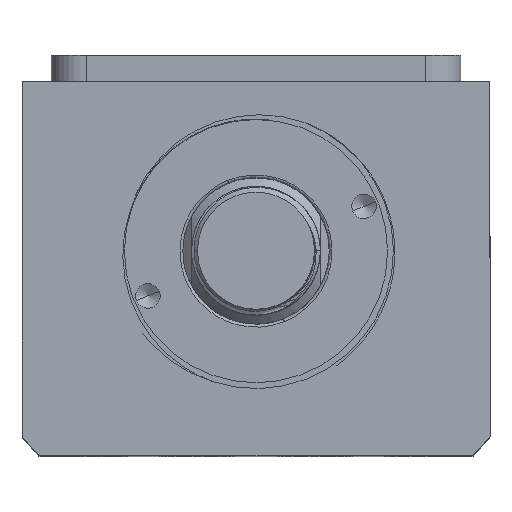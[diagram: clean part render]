
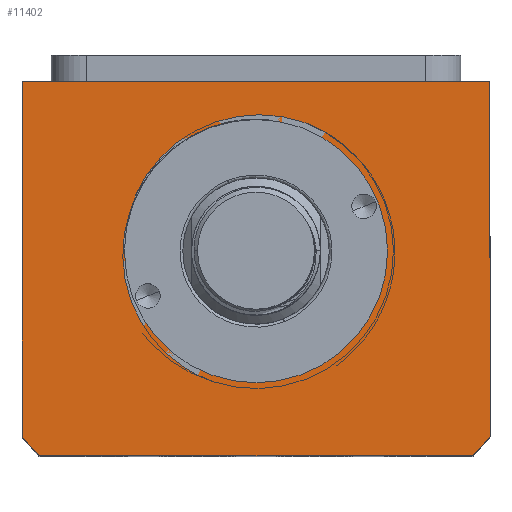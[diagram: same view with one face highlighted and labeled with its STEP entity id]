
A CAD part, top view. The second image highlights one B-rep face of the part: STEP entity #11402.
In plain terms, the highlighted planar face has unit normal (0, 0, 1).
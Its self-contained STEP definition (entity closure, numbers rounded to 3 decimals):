
#29 = VECTOR ( 'NONE', #12049, 1000. ) ;
#68 = VERTEX_POINT ( 'NONE', #3590 ) ;
#307 = AXIS2_PLACEMENT_3D ( 'NONE', #11603, #5178, #12655 ) ;
#762 = CIRCLE ( 'NONE', #4051, 22.5 ) ;
#773 = ORIENTED_EDGE ( 'NONE', *, *, #11687, .T. ) ;
#793 = CIRCLE ( 'NONE', #307, 51. ) ;
#826 = EDGE_CURVE ( 'NONE', #9306, #8482, #762, .T. ) ;
#1041 = AXIS2_PLACEMENT_3D ( 'NONE', #4506, #13083, #6701 ) ;
#1077 = CARTESIAN_POINT ( 'NONE',  ( -37.094, -32., 70. ) ) ;
#1415 = VECTOR ( 'NONE', #4759, 1000. ) ;
#1424 = DIRECTION ( 'NONE',  ( 0., 0., 1. ) ) ;
#1679 = DIRECTION ( 'NONE',  ( 0., 0., 1. ) ) ;
#1896 = EDGE_LOOP ( 'NONE', ( #7343, #2243, #4547, #773, #6670, #13754 ) ) ;
#2243 = ORIENTED_EDGE ( 'NONE', *, *, #6215, .T. ) ;
#2876 = LINE ( 'NONE', #10977, #29 ) ;
#2942 = VERTEX_POINT ( 'NONE', #1077 ) ;
#3147 = VECTOR ( 'NONE', #9063, 1000. ) ;
#3199 = VECTOR ( 'NONE', #12884, 1000. ) ;
#3346 = DIRECTION ( 'NONE',  ( 0., 0., 1. ) ) ;
#3399 = CIRCLE ( 'NONE', #7112, 22.5 ) ;
#3590 = CARTESIAN_POINT ( 'NONE',  ( 37.094, -32., 70. ) ) ;
#3701 = VERTEX_POINT ( 'NONE', #5535 ) ;
#4051 = AXIS2_PLACEMENT_3D ( 'NONE', #7880, #1424, #8952 ) ;
#4134 = EDGE_LOOP ( 'NONE', ( #11510, #7258 ) ) ;
#4257 = LINE ( 'NONE', #12260, #1415 ) ;
#4506 = CARTESIAN_POINT ( 'NONE',  ( 0., 0., 70. ) ) ;
#4547 = ORIENTED_EDGE ( 'NONE', *, *, #8287, .T. ) ;
#4667 = VERTEX_POINT ( 'NONE', #5971 ) ;
#4759 = DIRECTION ( 'NONE',  ( 0., -1., 0. ) ) ;
#5178 = DIRECTION ( 'NONE',  ( 0., 0., 1. ) ) ;
#5371 = FACE_OUTER_BOUND ( 'NONE', #1896, .T. ) ;
#5535 = CARTESIAN_POINT ( 'NONE',  ( -40., 32., 70. ) ) ;
#5971 = CARTESIAN_POINT ( 'NONE',  ( 40., -28.639, 70. ) ) ;
#6037 = LINE ( 'NONE', #10140, #3147 ) ;
#6215 = EDGE_CURVE ( 'NONE', #13926, #2942, #793, .T. ) ;
#6579 = CARTESIAN_POINT ( 'NONE',  ( -40., -28.639, 70. ) ) ;
#6670 = ORIENTED_EDGE ( 'NONE', *, *, #6791, .T. ) ;
#6701 = DIRECTION ( 'NONE',  ( 1., 0., 0. ) ) ;
#6791 = EDGE_CURVE ( 'NONE', #4667, #9559, #6037, .T. ) ;
#7112 = AXIS2_PLACEMENT_3D ( 'NONE', #9798, #3346, #10876 ) ;
#7258 = ORIENTED_EDGE ( 'NONE', *, *, #826, .F. ) ;
#7343 = ORIENTED_EDGE ( 'NONE', *, *, #12176, .T. ) ;
#7567 = AXIS2_PLACEMENT_3D ( 'NONE', #8132, #1679, #9200 ) ;
#7624 = PLANE ( 'NONE',  #1041 ) ;
#7880 = CARTESIAN_POINT ( 'NONE',  ( 0., 3., 70. ) ) ;
#8132 = CARTESIAN_POINT ( 'NONE',  ( 0., 3., 70. ) ) ;
#8254 = CARTESIAN_POINT ( 'NONE',  ( -22.5, 3., 70. ) ) ;
#8287 = EDGE_CURVE ( 'NONE', #2942, #68, #11785, .T. ) ;
#8482 = VERTEX_POINT ( 'NONE', #10049 ) ;
#8952 = DIRECTION ( 'NONE',  ( 1., 0., 0. ) ) ;
#9063 = DIRECTION ( 'NONE',  ( 0., 1., 0. ) ) ;
#9200 = DIRECTION ( 'NONE',  ( 1., 0., 0. ) ) ;
#9306 = VERTEX_POINT ( 'NONE', #8254 ) ;
#9559 = VERTEX_POINT ( 'NONE', #10973 ) ;
#9798 = CARTESIAN_POINT ( 'NONE',  ( 0., 3., 70. ) ) ;
#10049 = CARTESIAN_POINT ( 'NONE',  ( 22.5, 3., 70. ) ) ;
#10140 = CARTESIAN_POINT ( 'NONE',  ( 40., 32., 70. ) ) ;
#10610 = CARTESIAN_POINT ( 'NONE',  ( -40., -32., 70. ) ) ;
#10876 = DIRECTION ( 'NONE',  ( 1., 0., 0. ) ) ;
#10973 = CARTESIAN_POINT ( 'NONE',  ( 40., 32., 70. ) ) ;
#10977 = CARTESIAN_POINT ( 'NONE',  ( -40., 32., 70. ) ) ;
#11402 = ADVANCED_FACE ( 'NONE', ( #13904, #5371 ), #7624, .T. ) ;
#11510 = ORIENTED_EDGE ( 'NONE', *, *, #13915, .F. ) ;
#11603 = CARTESIAN_POINT ( 'NONE',  ( 0., 3., 70. ) ) ;
#11687 = EDGE_CURVE ( 'NONE', #68, #4667, #12543, .T. ) ;
#11785 = LINE ( 'NONE', #10610, #3199 ) ;
#12049 = DIRECTION ( 'NONE',  ( -1., 0., 0. ) ) ;
#12176 = EDGE_CURVE ( 'NONE', #3701, #13926, #4257, .T. ) ;
#12260 = CARTESIAN_POINT ( 'NONE',  ( -40., 32., 70. ) ) ;
#12543 = CIRCLE ( 'NONE', #7567, 51. ) ;
#12655 = DIRECTION ( 'NONE',  ( 1., 0., 0. ) ) ;
#12884 = DIRECTION ( 'NONE',  ( 1., 0., 0. ) ) ;
#13083 = DIRECTION ( 'NONE',  ( 0., 0., 1. ) ) ;
#13421 = EDGE_CURVE ( 'NONE', #9559, #3701, #2876, .T. ) ;
#13754 = ORIENTED_EDGE ( 'NONE', *, *, #13421, .T. ) ;
#13904 = FACE_BOUND ( 'NONE', #4134, .T. ) ;
#13915 = EDGE_CURVE ( 'NONE', #8482, #9306, #3399, .T. ) ;
#13926 = VERTEX_POINT ( 'NONE', #6579 ) ;
